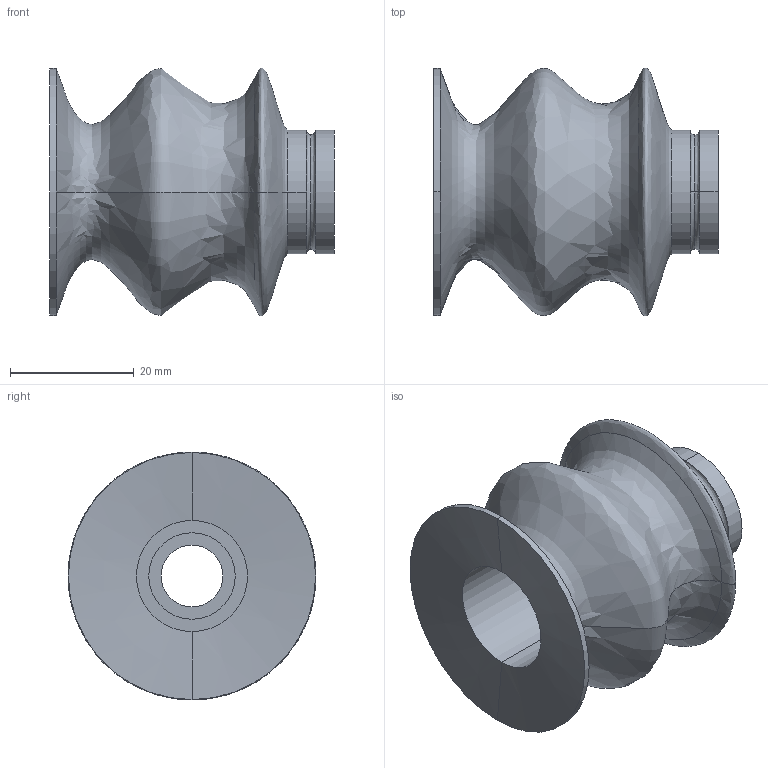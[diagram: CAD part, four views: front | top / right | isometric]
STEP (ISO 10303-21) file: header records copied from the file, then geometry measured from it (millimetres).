
FILE_DESCRIPTION (( 'STEP AP214' ), '1' );
FILE_NAME ('VSH-40R-3.STEP', '2019-11-14T02:05:10', ( '微软用户' ), ( '微软中国' ), 'SwSTEP 2.0', 'SolidWorks 2016', '' );
FILE_SCHEMA (( 'AUTOMOTIVE_DESIGN' ));
Length unit declared in the file: millimetre
Products named in the file (1): VSH-40R-3
Bounding box: 46 x 40.14 x 40.11 mm (x, y, z)
Volume: 22779.5 mm3; surface area: 10156 mm2
Topology: 1 solids, 1 shells, 25 faces, 54 edges, 32 vertices
Faces by surface type: cylinder 12, bspline 8, plane 3, cone 2
Entity records: 834 total; most frequent: CARTESIAN_POINT 276, DIRECTION 114, ORIENTED_EDGE 108, EDGE_CURVE 54, AXIS2_PLACEMENT_3D 50, CIRCLE 32, VERTEX_POINT 32, EDGE_LOOP 28
